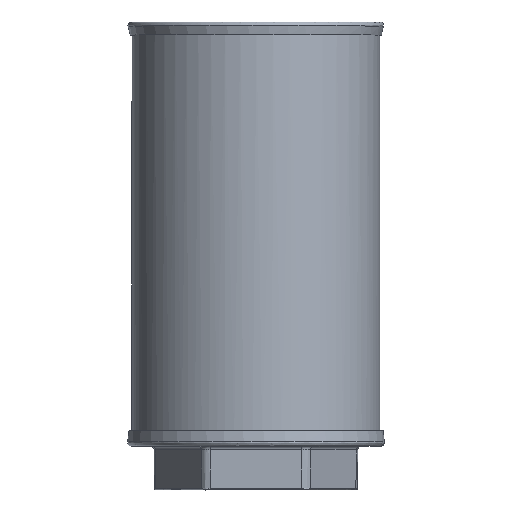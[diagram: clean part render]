
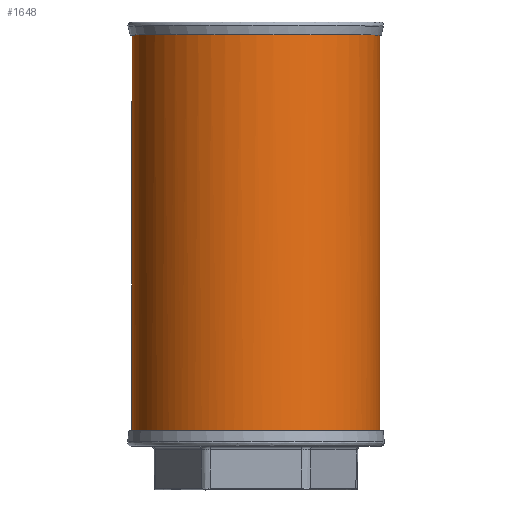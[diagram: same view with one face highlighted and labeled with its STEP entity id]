
A CAD part, top view. The second image highlights one B-rep face of the part: STEP entity #1648.
In plain terms, the highlighted free-form (B-spline) face has degree [2, 1] with [7, 2] control points.
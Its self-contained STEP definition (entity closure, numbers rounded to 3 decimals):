
#1576=CARTESIAN_POINT('V2',(75.006,10.287,
   0.0));
#1577=VERTEX_POINT('V2',#1576);
#1578=CARTESIAN_POINT('E2',(75.006,10.287,
   0.0));
#1579=CARTESIAN_POINT('E2',(75.006,10.287,
   -83.658));
#1580=CARTESIAN_POINT('E2',(2.556,10.287,
   -41.829));
#1581=CARTESIAN_POINT('E2',(-69.894,10.287,
   0.));
#1582=CARTESIAN_POINT('E2',(2.556,10.287,
   41.829));
#1583=CARTESIAN_POINT('E2',(75.006,10.287,
   83.658));
#1584=CARTESIAN_POINT('E2',(75.006,10.287,
   0.0));
#1592=(BOUNDED_CURVE()B_SPLINE_CURVE(2,(#1578,#1579,#1580,#1581,
   #1582,#1583,#1584),.CIRCULAR_ARC.,.T.,.U.)
   B_SPLINE_CURVE_WITH_KNOTS((3,2,2,3),(0.0,1.026,
   2.053,3.079),.UNSPECIFIED.)CURVE()
   GEOMETRIC_REPRESENTATION_ITEM()RATIONAL_B_SPLINE_CURVE((1.0,
   0.5,1.0,0.5,1.0,0.5,1.0)
   )REPRESENTATION_ITEM('E2'));
#1593=EDGE_CURVE('E2',#1577,#1577,#1592,.T.);
#1598=CARTESIAN_POINT('F32',(75.006,10.287,
   0.0));
#1599=CARTESIAN_POINT('F32',(75.006,10.287,
   83.658));
#1600=CARTESIAN_POINT('F32',(2.556,10.287,
   41.829));
#1601=CARTESIAN_POINT('F32',(-69.894,10.287,
   0.));
#1602=CARTESIAN_POINT('F32',(2.556,10.287,
   -41.829));
#1603=CARTESIAN_POINT('F32',(75.006,10.287,
   -83.658));
#1604=CARTESIAN_POINT('F32',(75.006,10.287,
   0.0));
#1605=CARTESIAN_POINT('F32',(75.006,-152.713,
   0.0));
#1606=CARTESIAN_POINT('F32',(75.006,-152.713,
   83.658));
#1607=CARTESIAN_POINT('F32',(2.556,-152.713,
   41.829));
#1608=CARTESIAN_POINT('F32',(-69.894,
   -152.713,0.));
#1609=CARTESIAN_POINT('F32',(2.556,-152.713,
   -41.829));
#1610=CARTESIAN_POINT('F32',(75.006,-152.713,
   -83.658));
#1611=CARTESIAN_POINT('F32',(75.006,-152.713,
   0.0));
#1619=(BOUNDED_SURFACE()B_SPLINE_SURFACE(2,1,((#1598,#1605),(
   #1599,#1606),(#1600,#1607),(#1601,#1608),(#1602,#1609),(
   #1603,#1610),(#1604,#1611)),.CYLINDRICAL_SURF.,.T.,.F.,.U.)
   B_SPLINE_SURFACE_WITH_KNOTS((3,2,2,3),(2,2),(0.0,
   1.026,2.053,3.079),(0.0,1.0),
   .UNSPECIFIED.)GEOMETRIC_REPRESENTATION_ITEM()
   RATIONAL_B_SPLINE_SURFACE(((1.0,1.0),(0.5,
   0.5),(1.0,1.0),(0.5,
   0.5),(1.0,1.0),(0.5,
   0.5),(1.0,1.0)))REPRESENTATION_ITEM('F32')SURFACE(
   ));
#1620=ORIENTED_EDGE('F1',*,*,#1593,.F.);
#1621=CARTESIAN_POINT('V38',(75.006,-152.713,
   0.0));
#1622=VERTEX_POINT('V38',#1621);
#1623=CARTESIAN_POINT('E63',(75.006,10.287,
   0.0));
#1624=CARTESIAN_POINT('E63',(75.006,-152.713,
   0.0));
#1625=QUASI_UNIFORM_CURVE('E63',1,(#1623,#1624),.POLYLINE_FORM.,.F.,
   .U.);
#1626=EDGE_CURVE('E63',#1577,#1622,#1625,.T.);
#1627=ORIENTED_EDGE('E63',*,*,#1626,.T.);
#1628=CARTESIAN_POINT('E64',(75.006,-152.713,
   0.0));
#1629=CARTESIAN_POINT('E64',(75.006,-152.713,
   -83.658));
#1630=CARTESIAN_POINT('E64',(2.556,-152.713,
   -41.829));
#1631=CARTESIAN_POINT('E64',(-69.894,
   -152.713,0.));
#1632=CARTESIAN_POINT('E64',(2.556,-152.713,
   41.829));
#1633=CARTESIAN_POINT('E64',(75.006,-152.713,
   83.658));
#1634=CARTESIAN_POINT('E64',(75.006,-152.713,
   0.0));
#1642=(BOUNDED_CURVE()B_SPLINE_CURVE(2,(#1628,#1629,#1630,#1631,
   #1632,#1633,#1634),.CIRCULAR_ARC.,.T.,.U.)
   B_SPLINE_CURVE_WITH_KNOTS((3,2,2,3),(0.0,1.026,
   2.053,3.079),.UNSPECIFIED.)CURVE()
   GEOMETRIC_REPRESENTATION_ITEM()RATIONAL_B_SPLINE_CURVE((1.0,
   0.5,1.0,0.5,1.0,0.5,1.0)
   )REPRESENTATION_ITEM('E64'));
#1643=EDGE_CURVE('E64',#1622,#1622,#1642,.T.);
#1644=ORIENTED_EDGE('E64',*,*,#1643,.T.);
#1645=ORIENTED_EDGE('E63',*,*,#1626,.F.);
#1646=EDGE_LOOP('F32',(#1620,#1627,#1644,#1645));
#1647=FACE_OUTER_BOUND('F32',#1646,.T.);
#1648=ADVANCED_FACE('F32',(#1647),#1619,.T.);
